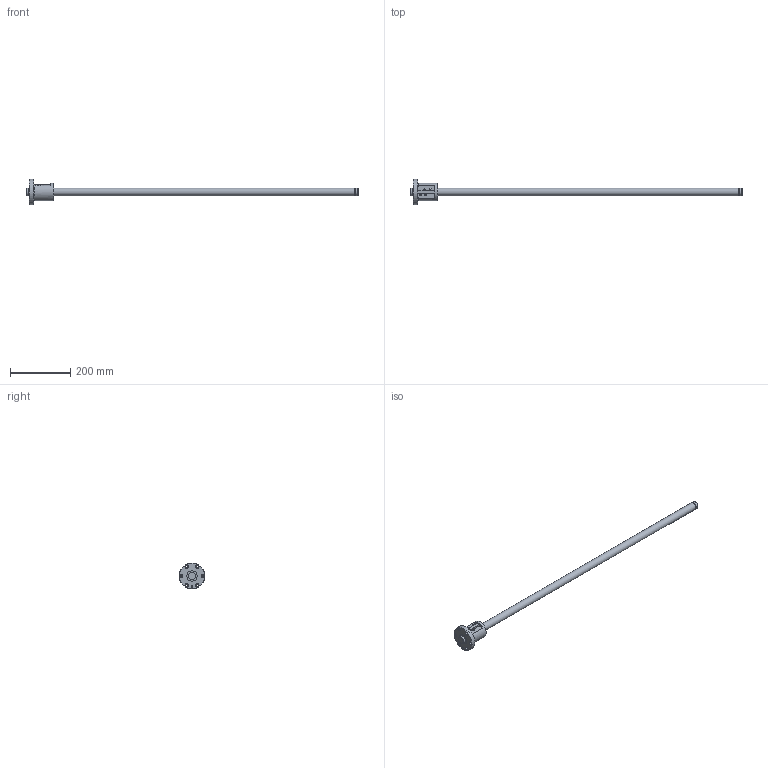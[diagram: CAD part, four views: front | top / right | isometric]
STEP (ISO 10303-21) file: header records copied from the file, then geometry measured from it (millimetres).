
FILE_DESCRIPTION( ( 'STEP AP203' ), ' ' );
FILE_NAME( 'p:/temp/worker_12/2884_3592/app_90_12018011811243069243334818fa3fd_000000_00_00_000000/format_0/BIF2508-5RRG0+1102LC1_10000.stp', '2018-01-18T10:24:32', ( '' ), ( '' ), ' ', 'PARTsolutions', ' ' );
FILE_SCHEMA( ( 'CONFIG_CONTROL_DESIGN' ) );
Length unit declared in the file: millimetre
Products named in the file (3): BIF2508-5RRG0+1102LC1_10000; _BIF 2508-5RR1000500 Shaft; _BIF 2508-5RR Nut
Assembly tree (2 placements, depth 2):
  BIF2508-5RRG0+1102LC1_10000
    _BIF 2508-5RR1000500 Shaft
    _BIF 2508-5RR Nut
Bounding box: 1102 x 85 x 85 mm (x, y, z)
Volume: 739156.7 mm3; surface area: 124589.2 mm2
Topology: 2 solids, 2 shells, 82 faces, 178 edges, 113 vertices
Faces by surface type: cylinder 39, plane 31, cone 8, torus 4
Full cylindrical faces by diameter (mm): 4.25 x2, 4.917 x1, 5.4 x4, 6.6 x6, 11 x6, 24.5 x2, 25 x4, 34.8 x2, 58 x1, 85 x1
Entity records: 2502 total; most frequent: CARTESIAN_POINT 711, DIRECTION 376, ORIENTED_EDGE 262, AXIS2_PLACEMENT_3D 172, EDGE_LOOP 156, EDGE_CURVE 131, FACE_OUTER_BOUND 111, VERTEX_POINT 103
